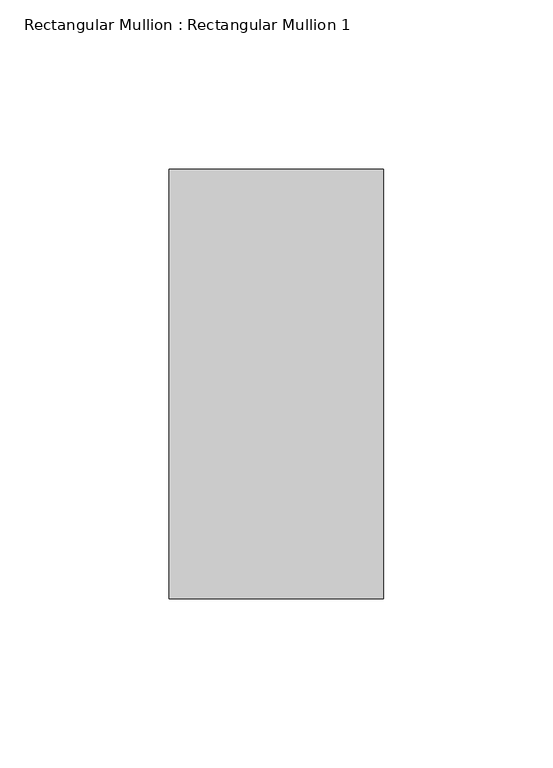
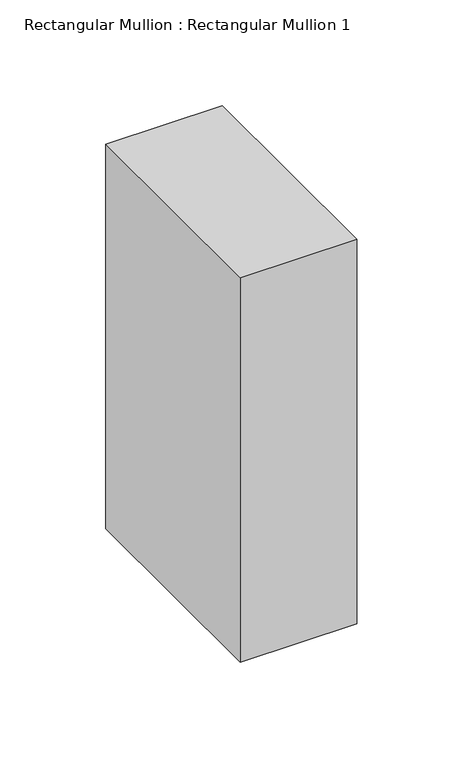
"""IFC4 building model written with IfcOpenShell, lengths in millimetres: member geometry, Rectangular Mullion : Rectangular Mullion 1."""

from ifc_helpers import new_model, si_unit, frame, origin, place, context, project, spatial, polyline, outline, extrude, source, transform, mapped, element, save


def rectangular_mullion_rectangular_mullion_1_777cae27(model_context):
    return source(origin(), model_context, "Body", "SweptSolid", [
        extrude(outline(polyline([(0.0, 63.5), (0.0, -63.5), (-63.5, -63.5), (-63.5, 63.5), (0.0, 63.5)])), frame((0.0, 0.0, -221.495196), z_axis=(0.0, 0.0, 1.0), x_axis=(1.0, 0.0, 0.0)), (0.0, 0.0, 1.0), 221.495196),
    ])


if __name__ == "__main__":
    model = new_model("IFC4")
    model_context = context("Model", 3, world=origin())
    ifc_project = project(units=[si_unit("LENGTHUNIT", "METRE", prefix="MILLI")], contexts=[model_context])
    site = spatial("IfcSite", under=ifc_project)
    building = spatial("IfcBuilding", under=site)
    placement = place(None, origin())
    rectangular_mullion_rectangular_mullion_1_shape = rectangular_mullion_rectangular_mullion_1_777cae27(model_context)
    element("IfcMember", 1, ObjectType="Rectangular Mullion : Rectangular Mullion 1", at=placement, inside=building, context=model_context, shape_type="MappedRepresentation", body=[
        mapped(rectangular_mullion_rectangular_mullion_1_shape, transform((0.0, 0.0, 0.0), x_axis=(1.0, 0.0, 0.0), y_axis=(0.0, 1.0, 0.0), z_axis=(0.0, 0.0, 1.0))),
    ])
    save(model, "model.ifc")
